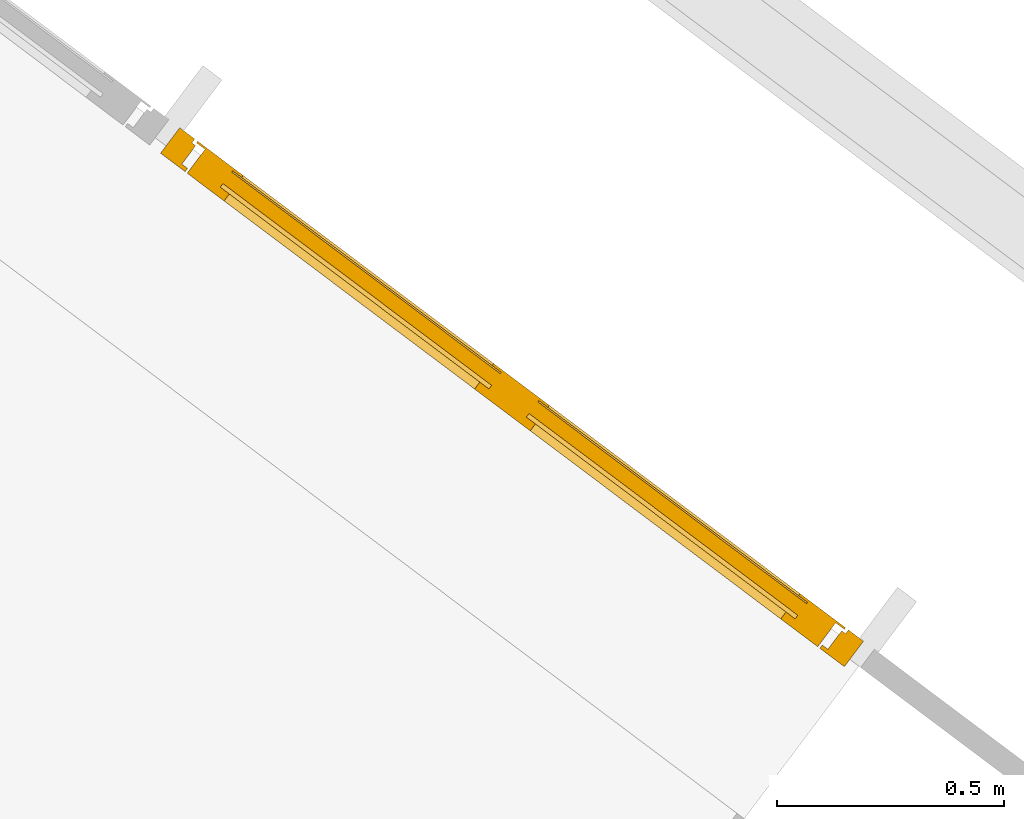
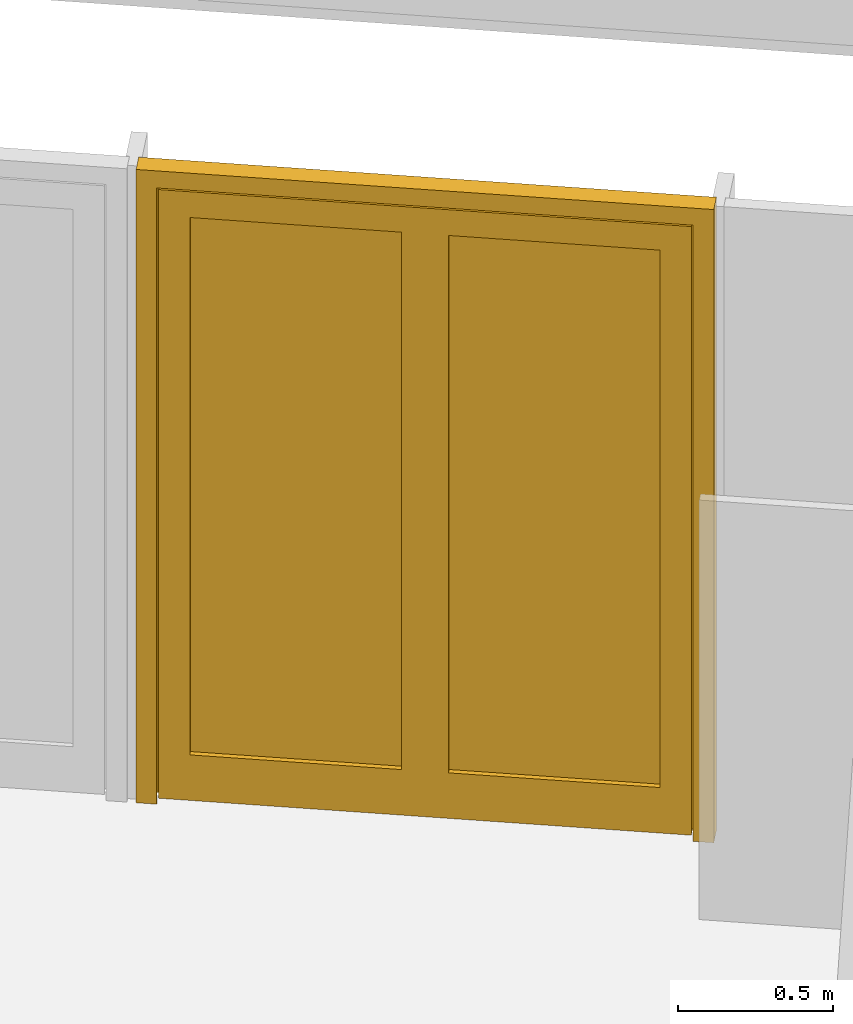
# One storey, part 15 of 15: 1 door, 1 element without a shape of its own.
"""IFC2X3 building model written with IfcOpenShell, lengths in metres."""

import ifcopenshell
import ifcopenshell.guid

model = None  # the IFC model being written
_history = None  # IfcOwnerHistory: only IFC2X3 demands one
_inside = {}  # id of a spatial element -> (the spatial element, [elements in it])
_under = {}  # id of a project, library or spatial element -> (it, [spatial elements below it])
_declared = {}  # id of a project -> (the project, [libraries it declares])
_typed = {}  # id of a type object -> (the type object, [elements of that type])
_made_of = {}  # id of a material, layer set ... -> (it, [elements and type objects made of it])


def new_model(schema):
    """Start an empty IFC model of exactly this schema.

    Asked for "IFC4X3", IfcOpenShell would pick the latest addendum, in which some entities
    have other attributes; the version numbers below select the first issue.
    IFC2X3 requires an IfcOwnerHistory on every rooted entity: one is made here for all.
    """
    global model, _history
    if schema == "IFC4X3":
        model = ifcopenshell.file(schema_version=(4, 3, 0, 0))
    else:
        model = ifcopenshell.file(schema=schema)
    _inside.clear()
    _under.clear()
    _declared.clear()
    _typed.clear()
    _made_of.clear()
    _history = None
    if model.schema == "IFC2X3":
        org = make("IfcOrganization", Name="unknown")
        user = make(
            "IfcPersonAndOrganization",
            ThePerson=make("IfcPerson", FamilyName="unknown"),
            TheOrganization=org,
        )
        app = make(
            "IfcApplication",
            ApplicationDeveloper=org,
            Version="unknown",
            ApplicationFullName="unknown",
            ApplicationIdentifier="unknown",
        )
        _history = make(
            "IfcOwnerHistory",
            OwningUser=user,
            OwningApplication=app,
            ChangeAction="ADDED",
            CreationDate=0,
        )
    return model


def make(cls, **values):
    """One entity of the class cls with the attributes given. An attribute that is None is left unset."""
    return model.create_entity(
        cls, **{name: value for name, value in values.items() if value is not None}
    )


def entity(cls, *values):
    """Any entity or typed value of the class cls, its attributes in the order of the schema. None: left unset."""
    e = model.create_entity(cls)
    for i, value in enumerate(values):
        if value is not None:
            e[i] = value
    return e


def rooted(cls, **values):
    """An entity with a GlobalId (a new one), such as an element, a storey or a relation."""
    return make(cls, GlobalId=ifcopenshell.guid.new(), OwnerHistory=_history, **values)


def si_unit(unit_type, name, prefix=None):
    """IfcSIUnit, for example si_unit("LENGTHUNIT", "METRE", prefix="MILLI")."""
    return make("IfcSIUnit", UnitType=unit_type, Prefix=prefix, Name=name)


def converted_unit(unit_type, name, factor, base, dimensions=None, offset=None):
    """IfcConversionBasedUnit, such as the inch: factor (a typed value) times the base unit."""
    return make(
        "IfcConversionBasedUnit"
        if offset is None
        else "IfcConversionBasedUnitWithOffset",
        ConversionOffset=offset,
        Dimensions=None
        if dimensions is None
        else entity("IfcDimensionalExponents", *dimensions),
        UnitType=unit_type,
        Name=name,
        ConversionFactor=make(
            "IfcMeasureWithUnit", ValueComponent=factor, UnitComponent=base
        ),
    )


def derived_unit(unit_type, elements):
    """IfcDerivedUnit: a product of units, each with its exponent."""
    return make(
        "IfcDerivedUnit",
        Elements=[
            make("IfcDerivedUnitElement", Unit=unit, Exponent=power)
            for unit, power in elements
        ],
        UnitType=unit_type,
    )


def assignment(units):
    """IfcUnitAssignment: the units of a project."""
    return None if units is None else make("IfcUnitAssignment", Units=units)


def point(xyz):
    """IfcCartesianPoint."""
    return None if xyz is None else make("IfcCartesianPoint", Coordinates=xyz)


def direction(xyz):
    """IfcDirection."""
    return None if xyz is None else make("IfcDirection", DirectionRatios=xyz)


def frame(location, z_axis=None, x_axis=None):
    """IfcAxis2Placement3D, a coordinate frame: its origin and axes. An axis left out is left unset."""
    return make(
        "IfcAxis2Placement3D",
        Location=point(location),
        Axis=direction(z_axis),
        RefDirection=direction(x_axis),
    )


def origin():
    """The frame at (0, 0, 0) with its axes left unset."""
    return frame((0.0, 0.0, 0.0))


def place(relative_to, where):
    """IfcLocalPlacement: puts the frame where relative to a parent placement (None: the world)."""
    return make(
        "IfcLocalPlacement", PlacementRelTo=relative_to, RelativePlacement=where
    )


def context(
    kind, dimensions, precision=None, world=None, true_north=None, identifier=None
):
    """IfcGeometricRepresentationContext, for example the 3D "Model" context."""
    return make(
        "IfcGeometricRepresentationContext",
        ContextIdentifier=identifier,
        ContextType=kind,
        CoordinateSpaceDimension=dimensions,
        Precision=precision,
        WorldCoordinateSystem=world,
        TrueNorth=true_north,
    )


def subcontext(parent, identifier, kind, view, scale=None):
    """IfcGeometricRepresentationSubContext, for example "Body" below "Model"."""
    return make(
        "IfcGeometricRepresentationSubContext",
        ContextIdentifier=identifier,
        ContextType=kind,
        ParentContext=parent,
        TargetScale=scale,
        TargetView=view,
    )


def project(units=None, contexts=None):
    """IfcProject with its units and contexts."""
    return rooted(
        "IfcProject",
        Name="project",
        RepresentationContexts=contexts,
        UnitsInContext=assignment(units),
    )


def spatial(cls, under=None, at=None, **own):
    """A site, building, storey or space (cls), placed at a placement, below another one or the project."""
    s = rooted(cls, ObjectPlacement=at, **own)
    if under is not None:
        _under.setdefault(under.id(), (under, []))[1].append(s)
    return s


def faces_of(points, faces, orient=None, outer=None):
    """IfcFace entities. A face is a list of loops; a loop is a list of indices into points, from 0.

    orient and outer hold one flag for each loop. By default every Orientation is true, the
    first loop of a face is its IfcFaceOuterBound and the others are IfcFaceBound.
    """
    made = []
    for i, loops in enumerate(faces):
        bounds = []
        for j, loop in enumerate(loops):
            is_outer = j == 0 if outer is None else outer[i][j]
            bounds.append(
                make(
                    "IfcFaceOuterBound" if is_outer else "IfcFaceBound",
                    Bound=make("IfcPolyLoop", Polygon=[points[k] for k in loop]),
                    Orientation=True if orient is None else orient[i][j],
                )
            )
        made.append(make("IfcFace", Bounds=bounds))
    return made


def faceted_brep(points, faces, orient=None, outer=None, voids=None):
    """IfcFacetedBrep: a solid bounded by flat faces; with voids (closed shells), ...WithVoids."""
    shared = [point(p) for p in points]
    hull = make("IfcClosedShell", CfsFaces=faces_of(shared, faces, orient, outer))
    if voids is None:
        return make("IfcFacetedBrep", Outer=hull)
    return make(
        "IfcFacetedBrepWithVoids",
        Outer=hull,
        Voids=[
            make(cls, CfsFaces=faces_of(shared, fs, o, b)) for cls, fs, o, b in voids
        ],
    )


def shape(context_of_items, identifier, shape_type, items):
    """IfcShapeRepresentation: the items that make up one representation, for example the "Body"."""
    return make(
        "IfcShapeRepresentation",
        ContextOfItems=context_of_items,
        RepresentationIdentifier=identifier,
        RepresentationType=shape_type,
        Items=items,
    )


def source(mapping_origin, context_of_items, identifier, shape_type, items):
    """IfcRepresentationMap: a shape defined once, which mapped items show again and again."""
    return make(
        "IfcRepresentationMap",
        MappingOrigin=mapping_origin,
        MappedRepresentation=shape(context_of_items, identifier, shape_type, items),
    )


def transform(
    local_origin,
    x_axis=None,
    y_axis=None,
    z_axis=None,
    scale=None,
    scale2=None,
    scale3=None,
    uniform=True,
):
    """IfcCartesianTransformationOperator3D, or its non-uniform kind. x_axis, y_axis, z_axis: its Axis1, 2, 3."""
    if uniform:
        return make(
            "IfcCartesianTransformationOperator3D",
            Axis1=direction(x_axis),
            Axis2=direction(y_axis),
            LocalOrigin=point(local_origin),
            Scale=scale,
            Axis3=direction(z_axis),
        )
    return make(
        "IfcCartesianTransformationOperator3DnonUniform",
        Axis1=direction(x_axis),
        Axis2=direction(y_axis),
        LocalOrigin=point(local_origin),
        Scale=scale,
        Axis3=direction(z_axis),
        Scale2=scale2,
        Scale3=scale3,
    )


def mapped(mapping_source, mapping_target):
    """IfcMappedItem: shows the shape of a source again, moved by a transform."""
    return make(
        "IfcMappedItem", MappingSource=mapping_source, MappingTarget=mapping_target
    )


def material(Name=None, Category=None):
    """IfcMaterial."""
    return make("IfcMaterial", Name=Name, Category=Category)


def material_list(materials):
    """IfcMaterialList."""
    return make("IfcMaterialList", Materials=materials)


def made_of(thing, what):
    """Note that an element or type object is made of a material, layer set ...; save() writes the relation."""
    if what is not None:
        _made_of.setdefault(what.id(), (what, []))[1].append(thing)
    return thing


def type_object(cls, material=None, **own):
    """A type object (cls), such as IfcWallType, which elements share."""
    return made_of(rooted(cls, **own), material)


def type_shapes(of_type, sources):
    """Give a type object the sources (RepresentationMaps) that its elements show as mapped items."""
    of_type.RepresentationMaps = sources


def element(
    cls,
    number,
    at=None,
    inside=None,
    cuts=None,
    type_object=None,
    material=None,
    context=None,
    identifier="Body",
    shape_type=None,
    held_by="IfcProductDefinitionShape",
    body=None,
    shapes=None,
    **own,
):
    """One element of the class cls, such as IfcWall. Its Tag is "e" and its number.

    at: its placement. inside: the storey or other place that contains it. cuts: it is an
    opening in that element (IfcRelVoidsElement). A single representation is given by context,
    identifier, shape_type and body (its items); several are given by shapes. held_by: the class
    of the entity that holds the representations. save() writes the other relations.
    """
    e = rooted(cls, Tag="e%d" % number, ObjectPlacement=at, **own)
    if body is not None:
        shapes = [shape(context, identifier, shape_type, body)]
    if shapes is not None:
        e.Representation = make(held_by, Representations=shapes)
    if inside is not None:
        _inside.setdefault(inside.id(), (inside, []))[1].append(e)
    if cuts is not None:
        rooted(
            "IfcRelVoidsElement", RelatingBuildingElement=cuts, RelatedOpeningElement=e
        )
    if type_object is not None:
        _typed.setdefault(type_object.id(), (type_object, []))[1].append(e)
    return made_of(e, material)


def aggregate(whole, parts):
    """IfcRelAggregates: a whole, such as a stair, and the parts it consists of."""
    return rooted("IfcRelAggregates", RelatingObject=whole, RelatedObjects=parts)


def save(model, path):
    """Write the relations noted so far, then the file.

    IfcRelAggregates (storeys below a building ...), IfcRelContainedInSpatialStructure (elements
    in a storey), IfcRelDefinesByType, IfcRelAssociatesMaterial and IfcRelDeclares: one each for
    every whole, place, type object, material and project.
    """
    for whole, parts in _under.values():
        aggregate(whole, parts)
    for where, things in _inside.values():
        rooted(
            "IfcRelContainedInSpatialStructure",
            RelatedElements=things,
            RelatingStructure=where,
        )
    for kind, things in _typed.values():
        rooted("IfcRelDefinesByType", RelatedObjects=things, RelatingType=kind)
    for what, things in _made_of.values():
        rooted("IfcRelAssociatesMaterial", RelatedObjects=things, RelatingMaterial=what)
    for by, libraries in _declared.values():
        rooted("IfcRelDeclares", RelatingContext=by, RelatedDefinitions=libraries)
    model.write(path)


model = new_model("IFC2X3")

# Units and contexts
model_context = context("Model", 3, precision=1e-05, world=origin(), true_north=direction((6.123031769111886e-17, 1.0)))
body_context = subcontext(model_context, "Body", "Model", "MODEL_VIEW")
ifc_project = project(units=[si_unit("LENGTHUNIT", "METRE"), si_unit("AREAUNIT", "SQUARE_METRE"), si_unit("VOLUMEUNIT", "CUBIC_METRE"), converted_unit("PLANEANGLEUNIT", "DEGREE", entity("IfcRatioMeasure", 0.017453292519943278), si_unit("PLANEANGLEUNIT", "RADIAN"), dimensions=[0, 0, 0, 0, 0, 0, 0]), si_unit("MASSUNIT", "GRAM", prefix="KILO"), derived_unit("MASSDENSITYUNIT", [(si_unit("MASSUNIT", "GRAM", prefix="KILO"), 1), (si_unit("LENGTHUNIT", "METRE"), -3)]), derived_unit("IONCONCENTRATIONUNIT", [(si_unit("MASSUNIT", "GRAM", prefix="KILO"), 1), (si_unit("LENGTHUNIT", "METRE"), -3)]), derived_unit("MOMENTOFINERTIAUNIT", [(si_unit("LENGTHUNIT", "METRE"), 4)]), si_unit("TIMEUNIT", "SECOND"), si_unit("FREQUENCYUNIT", "HERTZ"), si_unit("THERMODYNAMICTEMPERATUREUNIT", "DEGREE_CELSIUS"), derived_unit("THERMALTRANSMITTANCEUNIT", [(si_unit("MASSUNIT", "GRAM", prefix="KILO"), 1), (si_unit("THERMODYNAMICTEMPERATUREUNIT", "KELVIN"), -1), (si_unit("TIMEUNIT", "SECOND"), -3)]), derived_unit("THERMALCONDUCTANCEUNIT", [(si_unit("MASSUNIT", "GRAM", prefix="KILO"), 1), (si_unit("THERMODYNAMICTEMPERATUREUNIT", "KELVIN"), -1), (si_unit("TIMEUNIT", "SECOND"), -3), (si_unit("LENGTHUNIT", "METRE"), 1)]), derived_unit("VOLUMETRICFLOWRATEUNIT", [(si_unit("LENGTHUNIT", "METRE"), 3), (si_unit("TIMEUNIT", "SECOND"), -1)]), derived_unit("MASSFLOWRATEUNIT", [(si_unit("MASSUNIT", "GRAM", prefix="KILO"), 1), (si_unit("TIMEUNIT", "SECOND"), -1)]), derived_unit("ROTATIONALFREQUENCYUNIT", [(si_unit("TIMEUNIT", "SECOND"), -1)]), si_unit("ELECTRICCURRENTUNIT", "AMPERE"), si_unit("ELECTRICVOLTAGEUNIT", "VOLT"), si_unit("POWERUNIT", "WATT"), si_unit("FORCEUNIT", "NEWTON", prefix="KILO"), si_unit("ILLUMINANCEUNIT", "LUX"), si_unit("LUMINOUSFLUXUNIT", "LUMEN"), si_unit("LUMINOUSINTENSITYUNIT", "CANDELA"), derived_unit("USERDEFINED", [(si_unit("MASSUNIT", "GRAM", prefix="KILO"), -1), (si_unit("LENGTHUNIT", "METRE"), -2), (si_unit("TIMEUNIT", "SECOND"), 3), (si_unit("LUMINOUSFLUXUNIT", "LUMEN"), 1)]), derived_unit("USERDEFINED", [(si_unit("MASSUNIT", "GRAM", prefix="KILO"), 1), (si_unit("TIMEUNIT", "SECOND"), -3), (si_unit("LENGTHUNIT", "METRE"), 3), (si_unit("ELECTRICCURRENTUNIT", "AMPERE"), -2)]), derived_unit("SOUNDPOWERUNIT", [(si_unit("MASSUNIT", "GRAM", prefix="KILO"), 1), (si_unit("TIMEUNIT", "SECOND"), -3), (si_unit("LENGTHUNIT", "METRE"), 2)]), derived_unit("SOUNDPRESSUREUNIT", [(si_unit("MASSUNIT", "GRAM", prefix="KILO"), 1), (si_unit("LENGTHUNIT", "METRE"), -1), (si_unit("TIMEUNIT", "SECOND"), -2)]), derived_unit("LINEARVELOCITYUNIT", [(si_unit("LENGTHUNIT", "METRE"), 1), (si_unit("TIMEUNIT", "SECOND"), -1)]), si_unit("PRESSUREUNIT", "PASCAL"), derived_unit("USERDEFINED", [(si_unit("MASSUNIT", "GRAM", prefix="KILO"), 1), (si_unit("LENGTHUNIT", "METRE"), -2), (si_unit("TIMEUNIT", "SECOND"), -2)]), derived_unit("LINEARFORCEUNIT", [(si_unit("MASSUNIT", "GRAM", prefix="KILO"), 1), (si_unit("TIMEUNIT", "SECOND"), -2)]), derived_unit("PLANARFORCEUNIT", [(si_unit("MASSUNIT", "GRAM", prefix="KILO"), 1), (si_unit("LENGTHUNIT", "METRE"), -1), (si_unit("TIMEUNIT", "SECOND"), -2)]), derived_unit("SPECIFICHEATCAPACITYUNIT", [(si_unit("THERMODYNAMICTEMPERATUREUNIT", "KELVIN"), -1), (si_unit("LENGTHUNIT", "METRE"), 2), (si_unit("TIMEUNIT", "SECOND"), -2)]), derived_unit("HEATINGVALUEUNIT", [(si_unit("LENGTHUNIT", "METRE"), 2), (si_unit("TIMEUNIT", "SECOND"), -2)]), derived_unit("VAPORPERMEABILITYUNIT", [(si_unit("LENGTHUNIT", "METRE"), -1), (si_unit("TIMEUNIT", "SECOND"), 1)]), derived_unit("DYNAMICVISCOSITYUNIT", [(si_unit("MASSUNIT", "GRAM", prefix="KILO"), 1), (si_unit("TIMEUNIT", "SECOND"), -1), (si_unit("LENGTHUNIT", "METRE"), -1)]), derived_unit("THERMALEXPANSIONCOEFFICIENTUNIT", [(si_unit("THERMODYNAMICTEMPERATUREUNIT", "KELVIN"), -1)]), derived_unit("MODULUSOFELASTICITYUNIT", [(si_unit("MASSUNIT", "GRAM", prefix="KILO"), 1), (si_unit("LENGTHUNIT", "METRE"), -1), (si_unit("TIMEUNIT", "SECOND"), -2)]), derived_unit("ISOTHERMALMOISTURECAPACITYUNIT", [(si_unit("LENGTHUNIT", "METRE"), 3), (si_unit("MASSUNIT", "GRAM", prefix="KILO"), -1)]), derived_unit("MOISTUREDIFFUSIVITYUNIT", [(si_unit("TIMEUNIT", "SECOND"), -1), (si_unit("LENGTHUNIT", "METRE"), 2)])], contexts=[model_context])

# Site, building, storey
site_placement = place(None, frame((0.0, 0.0, 235.0), z_axis=(0.0, 0.0, 1.0), x_axis=(-0.7996477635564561, 0.6004693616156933, 0.0)))
site = spatial("IfcSite", under=ifc_project, at=site_placement, Name="Default", CompositionType="ELEMENT")
building_placement = place(site_placement, origin())
building = spatial("IfcBuilding", under=site, at=building_placement, CompositionType="ELEMENT")
storey_placement = place(building_placement, frame((0.0, 0.0, -5.4499999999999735)))
storey = spatial("IfcBuildingStorey", under=building, at=storey_placement, Name="PS1- Gimnàs", CompositionType="ELEMENT", Elevation=-5.4499999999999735)

# Curtain wall, door
curtain_wall_type = type_object("IfcCurtainWallType", Name="Muro cortina:MC- EXT- MCv1- Portes", PredefinedType="NOTDEFINED")
curtain_wall_placement = place(storey_placement, frame((0.0, 0.0, 5.4499999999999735)))
curtain_wall = element("IfcCurtainWall", 1, at=curtain_wall_placement, inside=storey, type_object=curtain_wall_type, Name="Muro cortina:MC- EXT- MCv1- Portes", ObjectType="Muro cortina:MC- EXT- MCv1- Portes")
ifc_material_1 = material(Name="_Alumini- T1- Perfil")
ifc_material_2 = material(Name="_Vidre")
ifc_material_list = material_list([ifc_material_1, ifc_material_2])
door_style = type_object("IfcDoorStyle", Name="MC- Alu- Conjunt doble porta- 70x60 cm- +15cm- obertura ext:MC- Alu- Conjunt doble porta- 70x60 cm- +15cm- obertura ext", ConstructionType="NOTDEFINED", OperationType="DOUBLE_DOOR_SINGLE_SWING", ParameterTakesPrecedence=False, Sizeable=False, material=ifc_material_list)
shared_shape = source(origin(), body_context, "Body", "Brep", [
    faceted_brep([(-0.8676999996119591, -0.06999999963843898, 0.02400000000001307), (-0.8676999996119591, -0.004300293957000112, 0.02400000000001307), (0.0, -0.004300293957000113, 0.02400000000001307), (0.0, -0.06999999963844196, 0.02400000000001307), (-0.8676999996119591, -0.00430029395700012, 2.426699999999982), (-0.8676999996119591, -0.06999999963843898, 2.426699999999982), (0.0, -0.00430029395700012, 2.4266999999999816), (0.0, -0.004300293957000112, 2.4506999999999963), (-0.8916999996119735, -0.00430029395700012, 2.4506999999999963), (-0.8916999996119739, -0.00430029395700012, 0.0), (0.0, -0.004300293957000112, 0.0), (0.0, -0.06999999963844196, 2.4266999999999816), (0.0, -2.9457204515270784e-07, 0.0), (0.0, -2.9457204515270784e-07, 2.4506999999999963), (-0.7660999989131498, -0.06999999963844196, 2.3250999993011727), (-0.0765999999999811, -0.06999999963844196, 2.3250999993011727), (-0.0765999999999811, -0.06999999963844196, 0.2036000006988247), (-0.7660999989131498, -0.06999999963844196, 0.20360000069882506), (-0.07659999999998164, -0.005500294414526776, 2.3250999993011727), (-0.07659999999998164, -2.9457204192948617e-07, 2.3250999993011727), (-0.07659999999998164, -2.9457204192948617e-07, 0.20360000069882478), (-0.07659999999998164, -0.005500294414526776, 0.20360000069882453), (-0.8916999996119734, -2.9457204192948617e-07, 2.4506999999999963), (-0.8916999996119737, -2.9457204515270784e-07, 0.0), (-0.7660999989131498, -2.9457204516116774e-07, 2.3250999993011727), (-0.7660999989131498, -2.9457204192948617e-07, 0.20360000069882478), (-0.7660999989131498, -0.005500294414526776, 0.2036000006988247), (-0.7660999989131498, -0.005500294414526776, 2.3250999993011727), (-0.051599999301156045, -0.005500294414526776, 2.3500999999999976), (-0.7910999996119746, -0.005500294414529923, 2.3500999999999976), (-0.7910999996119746, -0.005500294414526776, 0.17859999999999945), (-0.051599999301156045, -0.005500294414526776, 0.17859999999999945), (-0.7910999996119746, -0.051000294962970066, 2.3500999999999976), (-0.7910999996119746, -0.05100029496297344, 0.17859999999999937), (-0.051599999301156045, -0.051000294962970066, 0.17859999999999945), (-0.051599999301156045, -0.051000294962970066, 2.3500999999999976), (-0.0765999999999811, -0.051000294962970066, 2.3250999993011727), (-0.7660999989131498, -0.05100029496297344, 2.3250999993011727), (-0.7660999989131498, -0.051000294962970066, 0.20360000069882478), (-0.0765999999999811, -0.051000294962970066, 0.20360000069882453)], [[[0, 1, 2, 3]], [[4, 1, 0, 5]], [[6, 7, 8, 9, 10, 2, 1, 4]], [[7, 6, 11, 3, 2, 10, 12, 13]], [[14, 15, 16, 17], [11, 5, 0, 3]], [[18, 19, 20, 21]], [[22, 13, 12, 23], [19, 24, 25, 20]], [[26, 21, 20, 25]], [[27, 18, 21, 26], [28, 29, 30, 31]], [[24, 27, 26, 25]], [[29, 32, 33, 30]], [[34, 31, 30, 33]], [[35, 28, 31, 34]], [[32, 35, 34, 33], [36, 37, 38, 39]], [[37, 14, 17, 38]], [[17, 16, 39, 38]], [[15, 36, 39, 16]], [[9, 23, 12, 10]], [[8, 22, 23, 9]], [[4, 5, 11, 6]], [[7, 13, 22, 8]], [[27, 24, 19, 18]], [[32, 29, 28, 35]], [[14, 37, 36, 15]]], outer=[[True], [True], [True], [True], [False, True], [True], [True, False], [True], [False, True], [True], [True], [True], [True], [True, False], [True], [True], [True], [True], [True], [True], [True], [True], [True], [True]]),
    faceted_brep([(0.8676999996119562, -0.0043002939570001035, 0.024000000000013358), (0.8676999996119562, -0.069999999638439, 0.024000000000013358), (0.0, -0.06999999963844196, 0.024000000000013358), (0.0, -0.004300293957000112, 0.024000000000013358), (0.8916999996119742, -0.0043002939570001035, 0.0), (0.8916999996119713, -0.004300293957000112, 2.4506999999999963), (0.0, -0.004300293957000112, 2.4506999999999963), (0.0, -0.004300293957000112, 2.426699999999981), (0.8676999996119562, -0.004300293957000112, 2.426699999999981), (0.0, -0.0043002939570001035, 0.0), (0.8676999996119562, -0.069999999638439, 2.426699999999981), (0.0, -0.069999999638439, 2.426699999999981), (0.07659999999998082, -0.06999999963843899, 2.325099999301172), (0.7660999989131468, -0.069999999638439, 2.3250999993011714), (0.7660999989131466, -0.069999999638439, 0.20360000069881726), (0.07659999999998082, -0.06999999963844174, 0.20360000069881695), (0.0, -2.9457204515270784e-07, 2.4506999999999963), (0.0, -2.9457204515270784e-07, 0.0), (0.7660999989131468, -2.9457204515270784e-07, 2.3250999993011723), (0.07659999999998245, -2.9457204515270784e-07, 2.3250999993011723), (0.07659999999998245, -2.9457204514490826e-07, 0.20360000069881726), (0.7660999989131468, -2.9457204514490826e-07, 0.20360000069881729), (0.8916999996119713, -2.9457204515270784e-07, 2.4506999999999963), (0.8916999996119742, -2.9457204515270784e-07, 0.0), (0.7660999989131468, -0.005500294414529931, 2.3250999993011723), (0.7660999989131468, -0.005500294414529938, 0.20360000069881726), (0.07659999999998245, -0.005500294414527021, 0.20360000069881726), (0.7910999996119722, -0.005500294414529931, 2.3500999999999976), (0.0515999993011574, -0.005500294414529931, 2.3500999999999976), (0.0515999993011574, -0.005500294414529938, 0.17859999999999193), (0.7910999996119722, -0.005500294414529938, 0.17859999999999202), (0.07659999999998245, -0.005500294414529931, 2.325099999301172), (0.7910999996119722, -0.05100029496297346, 2.3500999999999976), (0.7910999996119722, -0.05100029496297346, 0.17859999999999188), (0.7660999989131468, -0.05100029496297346, 2.3250999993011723), (0.07659999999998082, -0.05100029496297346, 2.3250999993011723), (0.07659999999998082, -0.05100029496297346, 0.20360000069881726), (0.7660999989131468, -0.05100029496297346, 0.20360000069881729), (0.0515999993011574, -0.051000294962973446, 2.350099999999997), (0.0515999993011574, -0.051000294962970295, 0.17859999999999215)], [[[0, 1, 2, 3]], [[4, 5, 6, 7, 8, 0, 3, 9]], [[1, 0, 8, 10]], [[10, 11, 2, 1], [12, 13, 14, 15]], [[6, 16, 17, 9, 3, 2, 11, 7]], [[18, 19, 20, 21], [17, 16, 22, 23]], [[22, 5, 4, 23]], [[24, 18, 21, 25]], [[21, 20, 26, 25]], [[27, 28, 29, 30], [31, 24, 25, 26]], [[32, 27, 30, 33]], [[34, 35, 36, 37], [38, 32, 33, 39]], [[33, 30, 29, 39]], [[13, 34, 37, 14]], [[37, 36, 15, 14]], [[19, 31, 26, 20]], [[28, 38, 39, 29]], [[35, 12, 15, 36]], [[5, 22, 16, 6]], [[18, 24, 31, 19]], [[27, 32, 38, 28]], [[34, 13, 12, 35]], [[10, 8, 7, 11]], [[9, 17, 23, 4]]], outer=[[True], [True], [True], [True, False], [True], [False, True], [True], [True], [True], [True, False], [True], [False, True], [True], [True], [True], [True], [True], [True], [True], [True], [True], [True], [True], [True]]),
    faceted_brep([(0.05159999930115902, -0.009100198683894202, 0.17859999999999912), (0.7910999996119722, -0.009100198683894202, 0.17859999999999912), (0.7910999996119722, -0.04110019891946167, 0.17859999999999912), (0.05159999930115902, -0.04110019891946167, 0.17859999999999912), (0.05159999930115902, -0.009100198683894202, 2.375100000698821), (0.7910999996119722, -0.009100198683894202, 2.375100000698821), (0.7910999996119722, -0.04110019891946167, 2.375100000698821), (0.05159999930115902, -0.04110019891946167, 2.375100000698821)], [[[0, 1, 2, 3]], [[4, 5, 1, 0]], [[5, 6, 2, 1]], [[6, 7, 3, 2]], [[7, 4, 0, 3]], [[4, 7, 6, 5]]]),
    faceted_brep([(-0.05159999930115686, -0.009100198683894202, 0.17859999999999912), (-0.05159999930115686, -0.04110019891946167, 0.17859999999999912), (-0.7910999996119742, -0.04110019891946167, 0.17859999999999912), (-0.7910999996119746, -0.009100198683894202, 0.17859999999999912), (-0.05159999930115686, -0.009100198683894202, 2.375100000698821), (-0.05159999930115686, -0.04110019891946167, 2.375100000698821), (-0.7910999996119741, -0.04110019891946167, 2.375100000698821), (-0.7910999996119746, -0.009100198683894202, 2.375100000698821)], [[[0, 1, 2, 3]], [[4, 5, 1, 0]], [[5, 6, 2, 1]], [[6, 7, 3, 2]], [[7, 4, 0, 3]], [[4, 7, 6, 5]]]),
    faceted_brep([(0.9409999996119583, 0.0, 0.0), (0.9409999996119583, -0.06999999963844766, 0.0), (0.8736999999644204, -0.06999999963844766, 0.0), (0.8736999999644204, -0.061199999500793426, 0.0), (0.8891999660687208, -0.061199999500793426, 0.0), (0.8891999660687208, -0.010300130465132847, 0.0), (0.8996999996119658, -0.010300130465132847, 0.0), (0.8996999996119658, 0.0, 0.0), (0.940999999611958, 0.0, 2.499999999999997), (0.940999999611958, -0.06999999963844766, 2.499999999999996), (-0.9409999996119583, -0.06999999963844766, 2.499999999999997), (-0.9409999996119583, -0.06999999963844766, 0.0), (-0.8736999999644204, -0.06999999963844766, 0.0), (-0.8736999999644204, -0.06999999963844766, 2.4327000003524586), (0.87369999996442, -0.06999999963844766, 2.432700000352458), (0.87369999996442, -0.061199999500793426, 2.432700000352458), (-0.8736999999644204, -0.061199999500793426, 2.4327000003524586), (-0.8736999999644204, -0.061199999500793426, 0.0), (-0.8891999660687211, -0.061199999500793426, 0.0), (-0.8891999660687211, -0.061199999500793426, 2.4481999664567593), (0.8891999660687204, -0.061199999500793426, 2.4481999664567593), (0.8891999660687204, -0.010300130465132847, 2.4481999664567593), (-0.8891999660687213, -0.010300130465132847, 2.4481999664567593), (-0.8891999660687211, -0.010300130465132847, 0.0), (-0.8996999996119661, -0.010300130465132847, 0.0), (-0.8996999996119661, -0.010300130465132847, 2.4587000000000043), (0.8996999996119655, -0.010300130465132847, 2.4587000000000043), (0.8996999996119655, 0.0, 2.4587000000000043), (-0.8996999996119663, 0.0, 2.4587000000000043), (-0.8996999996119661, 0.0, 0.0), (-0.9409999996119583, 0.0, 0.0), (-0.9409999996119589, 0.0, 2.4999999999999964)], [[[0, 1, 2, 3, 4, 5, 6, 7]], [[1, 0, 8, 9]], [[2, 1, 9, 10, 11, 12, 13, 14]], [[3, 2, 14, 15]], [[4, 3, 15, 16, 17, 18, 19, 20]], [[5, 4, 20, 21]], [[6, 5, 21, 22, 23, 24, 25, 26]], [[7, 6, 26, 27]], [[0, 7, 27, 28, 29, 30, 31, 8]], [[30, 29, 24, 23, 18, 17, 12, 11]], [[28, 25, 24, 29]], [[22, 19, 18, 23]], [[16, 13, 12, 17]], [[10, 31, 30, 11]], [[9, 8, 31, 10]], [[15, 14, 13, 16]], [[21, 20, 19, 22]], [[27, 26, 25, 28]]]),
])
type_shapes(door_style, [shared_shape])
door_placement = place(curtain_wall_placement, frame((4.811147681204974, -38.460191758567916, -5.449999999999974), z_axis=(0.0, 0.0, 1.0), x_axis=(-1.0, 0.0, 0.0)))
door = element("IfcDoor", 2, at=door_placement, type_object=door_style, material=ifc_material_list, Name="MC- Alu- Conjunt doble porta- 70x60 cm- +15cm- obertura ext:MC- Alu- Conjunt doble porta- 70x60 cm- +15cm- obertura ext", ObjectType="MC- Alu- Conjunt doble porta- 70x60 cm- +15cm- obertura ext:MC- Alu- Conjunt doble porta- 70x60 cm- +15cm- obertura ext", OverallHeight=2.499999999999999, OverallWidth=1.8819999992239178, context=body_context, shape_type="MappedRepresentation", body=[
    mapped(shared_shape, transform((0.0, 0.0, 0.0), scale=1.0)),
])
aggregate(curtain_wall, [door])

save(model, "model.ifc")
